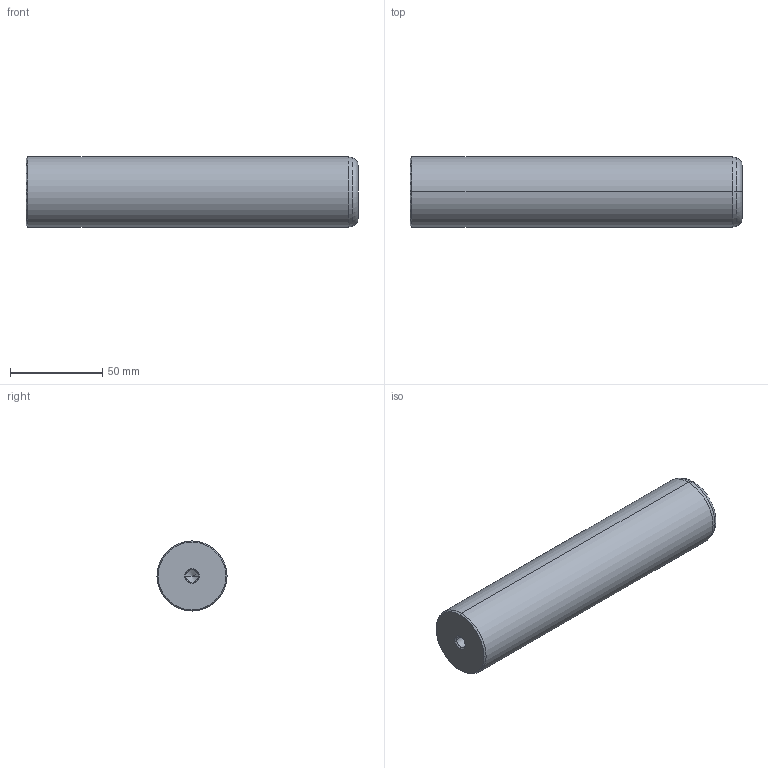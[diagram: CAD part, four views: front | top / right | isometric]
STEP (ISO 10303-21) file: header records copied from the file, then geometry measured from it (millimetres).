
FILE_DESCRIPTION(('CATIA V5 STEP Exchange'),'2;1');
FILE_NAME('C:\Users\Utente\Desktop\IO LAVORO\3D X SITO CF\X SITO\720\720-38x180.stp','2021-01-01T12:07:19+00:00',('none'),('none'),'CATIA Version 5 Release 20 GA (IN-10)','CATIA V5 STEP AP203','none');
FILE_SCHEMA(('CONFIG_CONTROL_DESIGN'));
Length unit declared in the file: millimetre
Products named in the file (1): 720-38x180
Bounding box: 180 x 38 x 38 mm (x, y, z)
Volume: 201801.1 mm3; surface area: 24443.2 mm2
Topology: 1 solids, 1 shells, 22 faces, 56 edges, 34 vertices
Faces by surface type: cone 12, cylinder 6, plane 2, torus 2
Entity records: 755 total; most frequent: CARTESIAN_POINT 216, ORIENTED_EDGE 104, DIRECTION 89, EDGE_CURVE 52, AXIS2_PLACEMENT_3D 50, VERTEX_POINT 34, CIRCLE 27, EDGE_LOOP 24
